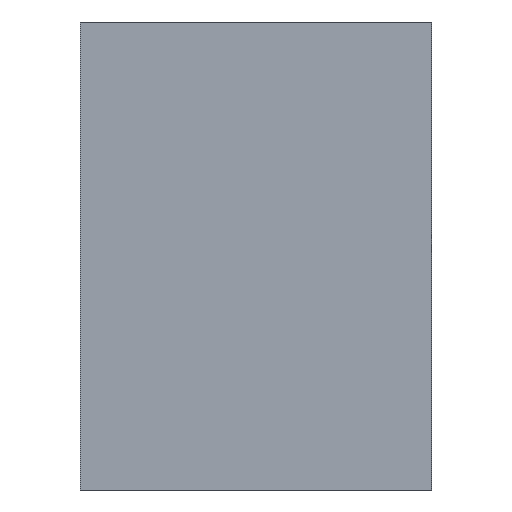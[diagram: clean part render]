
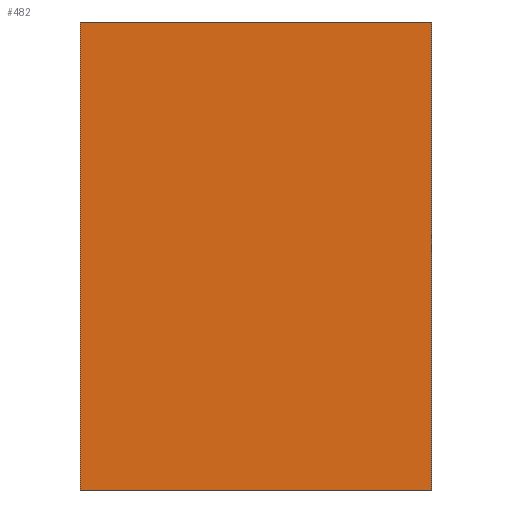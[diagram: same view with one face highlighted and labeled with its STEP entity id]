
A CAD part, left-side view. The second image highlights one B-rep face of the part: STEP entity #482.
In plain terms, the highlighted planar face has unit normal (-1, 0, 0).
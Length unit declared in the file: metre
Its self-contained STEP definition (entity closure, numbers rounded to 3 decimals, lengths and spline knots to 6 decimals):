
#137=DIRECTION('',(0.,1.,0.));
#138=VECTOR('',#137,0.03);
#139=CARTESIAN_POINT('',(-0.03,-0.03,0.02));
#140=LINE('',#139,#138);
#141=DIRECTION('',(0.,0.,1.));
#142=VECTOR('',#141,0.04);
#143=CARTESIAN_POINT('',(-0.03,-0.03,-0.02));
#144=LINE('',#143,#142);
#145=DIRECTION('',(0.,-1.,0.));
#146=VECTOR('',#145,0.03);
#147=CARTESIAN_POINT('',(-0.03,0.,-0.02));
#148=LINE('',#147,#146);
#149=DIRECTION('',(0.,0.,-1.));
#150=VECTOR('',#149,0.04);
#151=CARTESIAN_POINT('',(-0.03,0.,0.02));
#152=LINE('',#151,#150);
#249=CARTESIAN_POINT('',(-0.03,0.,0.02));
#250=CARTESIAN_POINT('',(-0.03,0.,-0.02));
#251=VERTEX_POINT('',#249);
#252=VERTEX_POINT('',#250);
#253=CARTESIAN_POINT('',(-0.03,-0.03,0.02));
#254=VERTEX_POINT('',#253);
#255=CARTESIAN_POINT('',(-0.03,-0.03,-0.02));
#256=VERTEX_POINT('',#255);
#469=CARTESIAN_POINT('',(-0.03,-0.03,-0.02));
#470=DIRECTION('',(-1.,0.,0.));
#471=DIRECTION('',(0.,0.,1.));
#472=AXIS2_PLACEMENT_3D('',#469,#470,#471);
#473=PLANE('',#472);
#474=ORIENTED_EDGE('',*,*,#276,.F.);
#476=ORIENTED_EDGE('',*,*,#475,.F.);
#478=ORIENTED_EDGE('',*,*,#477,.F.);
#479=ORIENTED_EDGE('',*,*,#454,.F.);
#480=EDGE_LOOP('',(#474,#476,#478,#479));
#481=FACE_OUTER_BOUND('',#480,.F.);
#482=ADVANCED_FACE('',(#481),#473,.T.);
#276=EDGE_CURVE('',#254,#251,#140,.T.);
#454=EDGE_CURVE('',#251,#252,#152,.T.);
#475=EDGE_CURVE('',#256,#254,#144,.T.);
#477=EDGE_CURVE('',#252,#256,#148,.T.);
